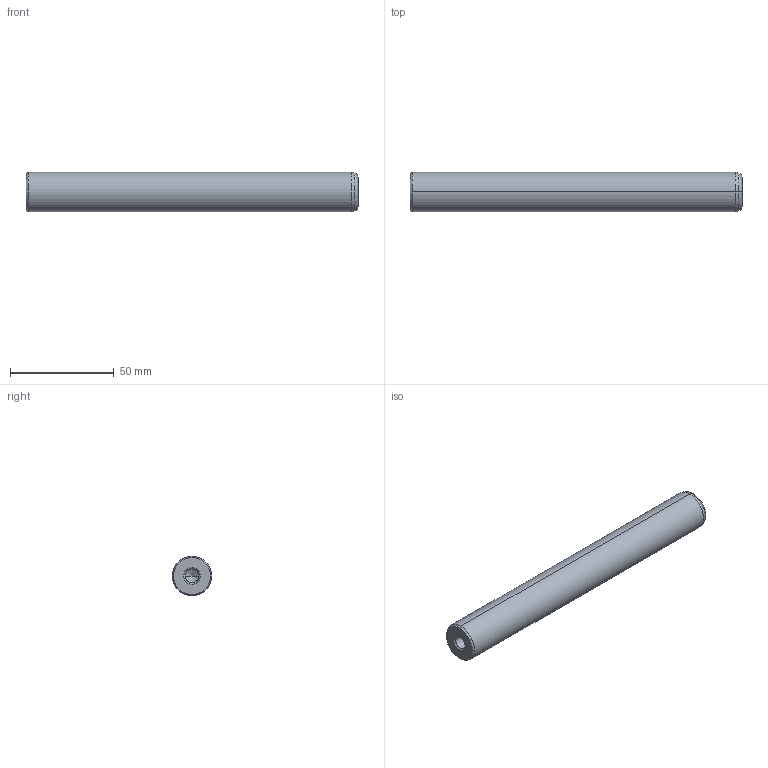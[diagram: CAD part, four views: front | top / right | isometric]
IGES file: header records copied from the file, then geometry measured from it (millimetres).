
Start section: START RECORD GO HERE.
Global section: file name: 720-19x160.igs; native system: DASSAULT SYSTEMES CATIA V5 R20 - www.3ds.com; preprocessor: CATIA Version 5 Release 20 ; author: Utente; organization: NB04-ASUS; date: 20210101.140712; units: millimetre
Bounding box: 160 x 19 x 19 mm (x, y, z)
Surface area: 11015.7 mm2 (no closed solid volume)
Topology: 0 solids, 0 shells, 22 faces, 108 edges, 104 vertices
Faces by surface type: revolution 20, plane 2
